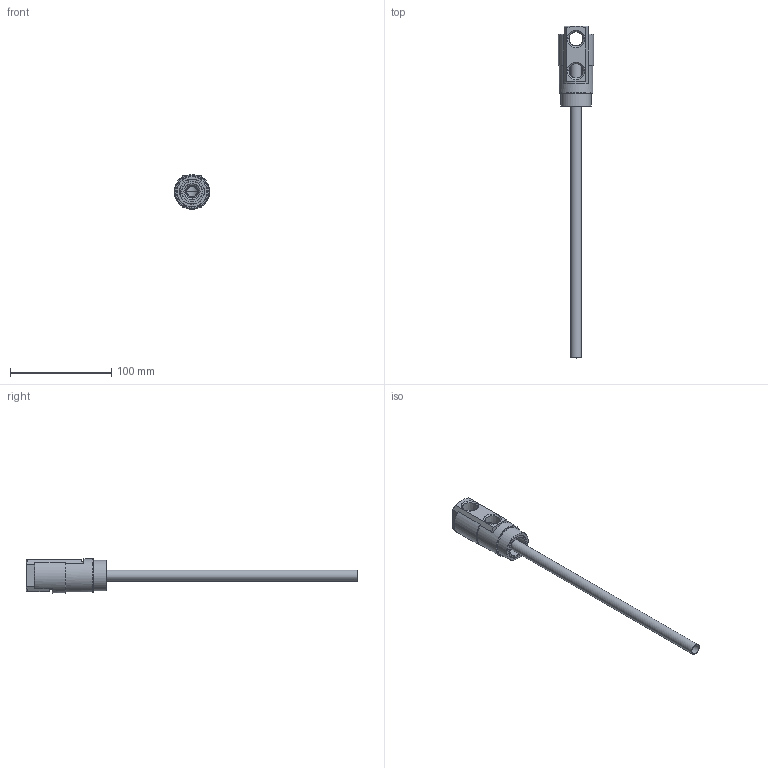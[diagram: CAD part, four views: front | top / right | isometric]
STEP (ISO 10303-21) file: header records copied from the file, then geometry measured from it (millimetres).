
FILE_DESCRIPTION(/* description */ (''),/* implementation_level */ '2;1');
FILE_NAME(/* name */ 'C:/Users/drich/Desktop/SC121N-6.step',/* time_stamp */ '2020-12-14T10:27:12-06:00',/* author */ (''),/* organization */ (''),/* preprocessor_version */ 'ST-DEVELOPER v18.1',/* originating_system */ 'Autodesk Translation Framework v9.7.1.1290',/* authorisation */ '');
FILE_SCHEMA (('AUTOMOTIVE_DESIGN { 1 0 10303 214 3 1 1 }'));
Length unit declared in the file: inch
Products named in the file (6): SC121N-6; SC121H-6 HEAD; SC121H-6 Sleeve; SEAL; Component4; HF437T-12
Assembly tree (5 placements, depth 4):
  SC121N-6
    SC121H-6 HEAD
      SC121H-6 Sleeve
      SEAL
        Component4
    HF437T-12
Bounding box: 34.92 x 328.3 x 34.12 mm (x, y, z)
Volume: 49316.8 mm3; surface area: 45281.2 mm2
Topology: 4 solids, 4 shells, 87 faces, 219 edges, 142 vertices
Faces by surface type: plane 40, cylinder 23, cone 15, torus 9
Full cylindrical faces by diameter (mm): 10.084 x1, 10.846 x1, 11.468 x1, 12.565 x1, 12.751 x1, 15.85 x1, 15.875 x1, 20.066 x1, 20.32 x1, 24.384 x1, 27.432 x1, 30.15 x1, 33.325 x1
Entity records: 2927 total; most frequent: CARTESIAN_POINT 653, DIRECTION 469, ORIENTED_EDGE 438, EDGE_CURVE 219, AXIS2_PLACEMENT_3D 187, VERTEX_POINT 142, EDGE_LOOP 101, LINE 95
